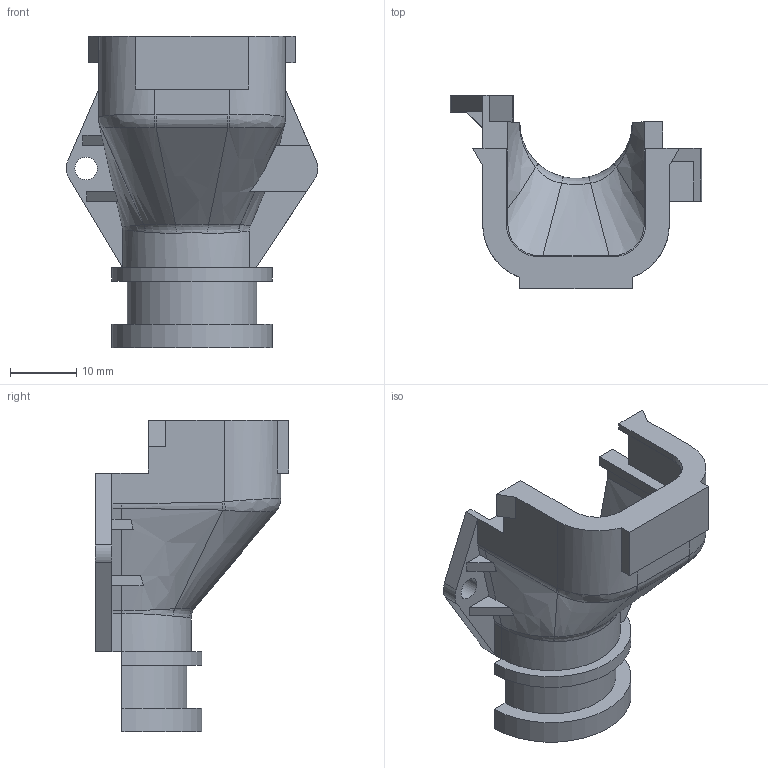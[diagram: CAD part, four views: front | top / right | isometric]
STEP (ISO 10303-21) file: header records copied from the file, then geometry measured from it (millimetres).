
FILE_DESCRIPTION((''),'2;1');
FILE_NAME('C-776464-1','2008-09-04T',('workeradm'),('Tyco Electronics Corporation'),'PRO/ENGINEER BY PARAMETRIC TECHNOLOGY CORPORATION, 2005450','PRO/ENGINEER BY PARAMETRIC TECHNOLOGY CORPORATION, 2005450','');
FILE_SCHEMA(('CONFIG_CONTROL_DESIGN', 'GEOMETRIC_VALIDATION_PROPERTIES_MIM'));
Length unit declared in the file: millimetre
Products named in the file (1): C-776464-1
Bounding box: 37.98 x 29.2 x 47.1 mm (x, y, z)
Volume: 5632.3 mm3; surface area: 6350.7 mm2
Topology: 1 solids, 1 shells, 146 faces, 398 edges, 255 vertices
Faces by surface type: plane 79, bspline 38, cylinder 25, cone 4
Entity records: 5907 total; most frequent: CARTESIAN_POINT 2385, ORIENTED_EDGE 796, DIRECTION 573, EDGE_CURVE 398, VERTEX_POINT 255, VECTOR 233, LINE 233, AXIS2_PLACEMENT_3D 170
